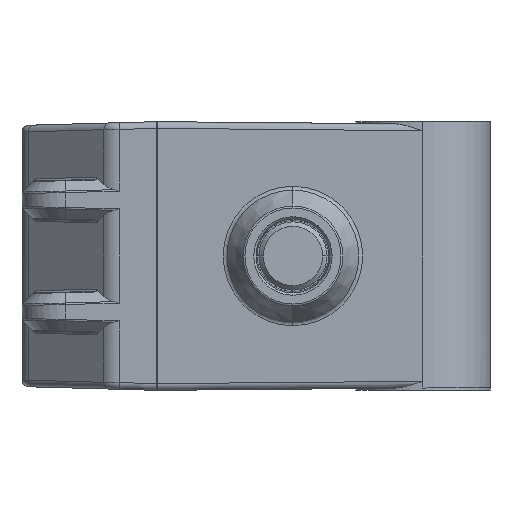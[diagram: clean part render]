
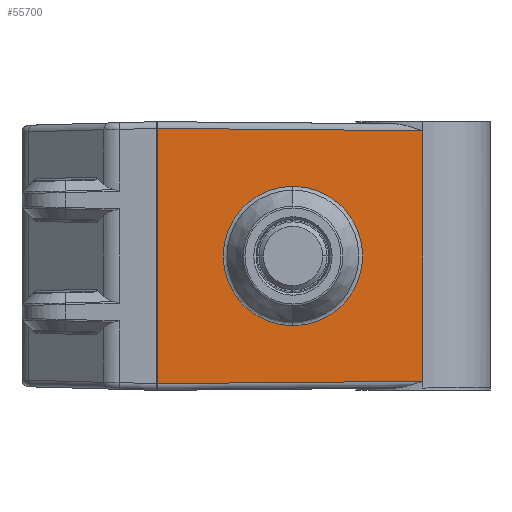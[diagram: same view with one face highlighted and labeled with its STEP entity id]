
A CAD part, left-side view. The second image highlights one B-rep face of the part: STEP entity #55700.
In plain terms, the highlighted planar face has unit normal (-1, 0, 0).
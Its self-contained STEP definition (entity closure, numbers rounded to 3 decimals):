
#36165=DIRECTION('',(0.,0.,-1.));
#36166=VECTOR('',#36165,11.192);
#36167=CARTESIAN_POINT('',(-23.914,-5.5,
5.596));
#36168=LINE('',#36167,#36166);
#38215=DIRECTION('',(0.,-1.,0.009));
#38216=VECTOR('',#38215,11.85);
#38217=CARTESIAN_POINT('',(-23.914,6.35,
-5.7));
#38218=LINE('',#38217,#38216);
#38219=DIRECTION('',(0.,0.,-1.));
#38220=VECTOR('',#38219,11.399);
#38221=CARTESIAN_POINT('',(-23.914,6.35,
5.7));
#38222=LINE('',#38221,#38220);
#38223=DIRECTION('',(0.,1.,0.009));
#38224=VECTOR('',#38223,11.85);
#38225=CARTESIAN_POINT('',(-23.914,-5.5,
5.596));
#38226=LINE('',#38225,#38224);
#38227=CARTESIAN_POINT('',(-23.914,0.3,0.));
#38228=DIRECTION('',(-1.,0.,0.));
#38229=DIRECTION('',(0.,0.,-1.));
#38230=AXIS2_PLACEMENT_3D('',#38227,#38228,#38229);
#38232=CARTESIAN_POINT('',(-23.914,0.3,0.));
#38233=DIRECTION('',(-1.,0.,0.));
#38234=DIRECTION('',(0.,0.,1.));
#38235=AXIS2_PLACEMENT_3D('',#38232,#38233,#38234);
#45062=CARTESIAN_POINT('',(-23.914,-5.5,
5.596));
#45063=CARTESIAN_POINT('',(-23.914,-5.5,
-5.596));
#45064=VERTEX_POINT('',#45062);
#45065=VERTEX_POINT('',#45063);
#46556=CARTESIAN_POINT('',(-23.914,0.3,
-3.112));
#46557=CARTESIAN_POINT('',(-23.914,0.3,
3.112));
#46558=VERTEX_POINT('',#46556);
#46559=VERTEX_POINT('',#46557);
#47170=CARTESIAN_POINT('',(-23.914,6.35,
-5.7));
#47171=VERTEX_POINT('',#47170);
#47172=CARTESIAN_POINT('',(-23.914,6.35,
5.7));
#47173=VERTEX_POINT('',#47172);
#55683=CARTESIAN_POINT('',(-23.914,8.,-6.));
#55684=DIRECTION('',(-1.,0.,0.));
#55685=DIRECTION('',(0.,1.,0.));
#55686=AXIS2_PLACEMENT_3D('',#55683,#55684,#55685);
#55687=PLANE('',#55686);
#55688=ORIENTED_EDGE('',*,*,#55671,.F.);
#55689=ORIENTED_EDGE('',*,*,#48224,.F.);
#55690=ORIENTED_EDGE('',*,*,#48272,.F.);
#55691=ORIENTED_EDGE('',*,*,#52808,.T.);
#55692=EDGE_LOOP('',(#55688,#55689,#55690,#55691));
#55693=FACE_OUTER_BOUND('',#55692,.F.);
#55695=ORIENTED_EDGE('',*,*,#55694,.T.);
#55697=ORIENTED_EDGE('',*,*,#55696,.T.);
#55698=EDGE_LOOP('',(#55695,#55697));
#55699=FACE_BOUND('',#55698,.F.);
#38231=CIRCLE('',#38230,3.112);
#38236=CIRCLE('',#38235,3.112);
#48224=EDGE_CURVE('',#47173,#47171,#38222,.T.);
#48272=EDGE_CURVE('',#45064,#47173,#38226,.T.);
#52808=EDGE_CURVE('',#45064,#45065,#36168,.T.);
#55671=EDGE_CURVE('',#47171,#45065,#38218,.T.);
#55694=EDGE_CURVE('',#46558,#46559,#38231,.T.);
#55696=EDGE_CURVE('',#46559,#46558,#38236,.T.);
#55700=ADVANCED_FACE('',(#55693,#55699),#55687,.T.);
